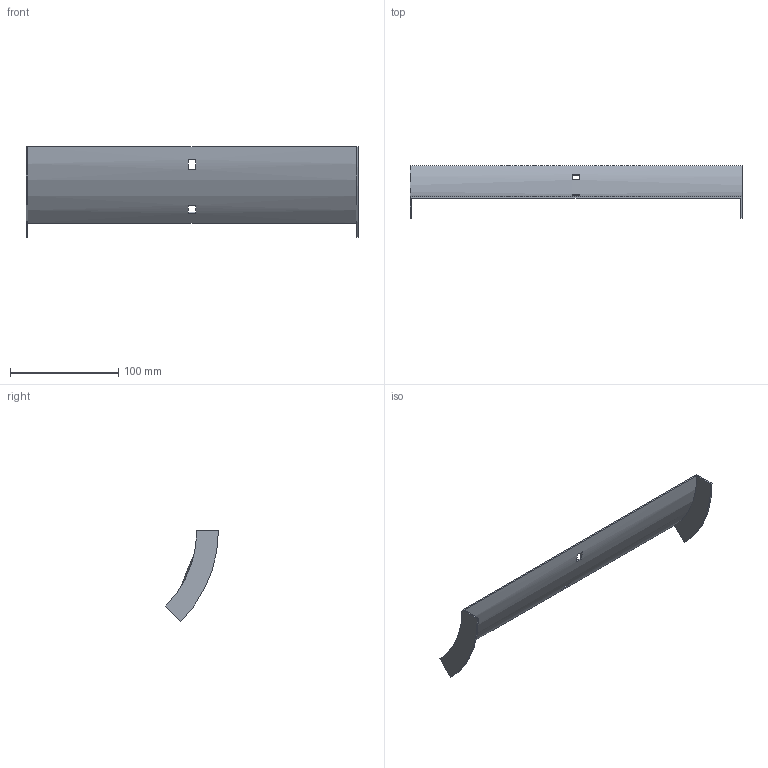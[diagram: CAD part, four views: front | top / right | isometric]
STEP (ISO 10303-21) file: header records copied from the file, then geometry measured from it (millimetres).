
FILE_DESCRIPTION (( 'STEP AP214' ), '1' );
FILE_NAME ('31N1R300.step', '2025-02-21T09:23:10', ( '' ), ( '' ), 'SwSTEP 2.0', 'SolidWorks 2023', '' );
FILE_SCHEMA (( 'AUTOMOTIVE_DESIGN' ));
Length unit declared in the file: millimetre
Products named in the file (1): 31N1R300
Bounding box: 307 x 48.85 x 83.79 mm (x, y, z)
Volume: 40480.4 mm3; surface area: 55377.7 mm2
Topology: 1 solids, 1 shells, 18 faces, 48 edges, 32 vertices
Faces by surface type: plane 14, cylinder 4
Entity records: 599 total; most frequent: DIRECTION 102, CARTESIAN_POINT 99, ORIENTED_EDGE 96, EDGE_CURVE 48, AXIS2_PLACEMENT_3D 35, VECTOR 32, VERTEX_POINT 32, LINE 32
